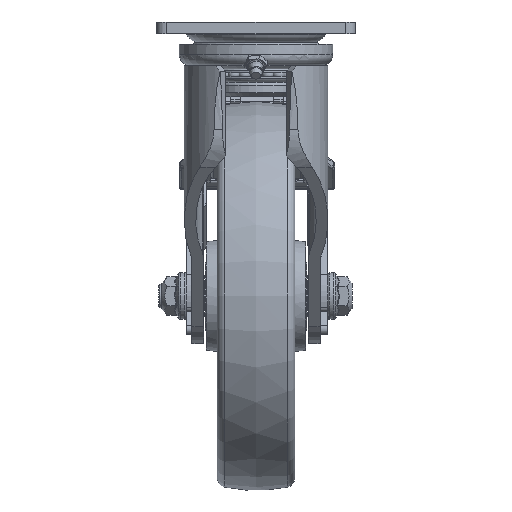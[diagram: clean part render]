
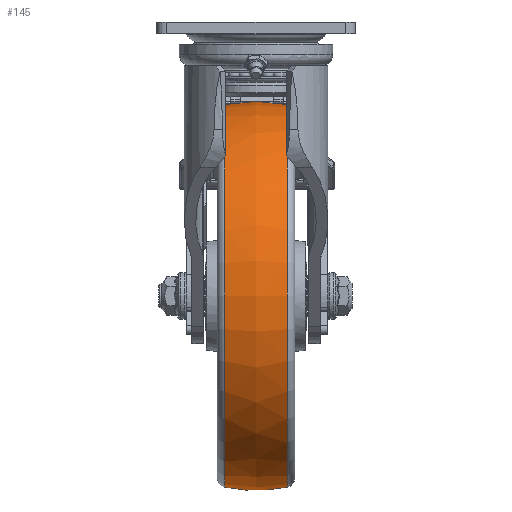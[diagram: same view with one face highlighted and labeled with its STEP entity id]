
A CAD part, left-side view. The second image highlights one B-rep face of the part: STEP entity #145.
In plain terms, the highlighted free-form (B-spline) face has degree [2, 2] with [3, 9] control points.
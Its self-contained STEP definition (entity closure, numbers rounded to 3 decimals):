
#73=CARTESIAN_POINT('',(300.356,274.025,33.171));
#74=VERTEX_POINT('',#73);
#75=CARTESIAN_POINT('',(300.356,274.025,131.555));
#76=DIRECTION('',(0.0,-1.0,0.0));
#77=DIRECTION('',(0.0,0.0,-1.0));
#78=AXIS2_PLACEMENT_3D('',#75,#76,#77);
#79=CIRCLE('',#78,98.384);
#80=EDGE_CURVE('',#74,#74,#79,.T.);
#96=CARTESIAN_POINT('',(201.972,274.025,131.555));
#97=CARTESIAN_POINT('',(198.706,290.025,131.555));
#98=CARTESIAN_POINT('',(201.972,306.025,131.555));
#99=CARTESIAN_POINT('',(201.972,274.025,33.171));
#100=CARTESIAN_POINT('',(198.706,290.025,29.905));
#101=CARTESIAN_POINT('',(201.972,306.025,33.171));
#102=CARTESIAN_POINT('',(300.356,274.025,33.171));
#103=CARTESIAN_POINT('',(300.356,290.025,29.905));
#104=CARTESIAN_POINT('',(300.356,306.025,33.171));
#105=CARTESIAN_POINT('',(398.739,274.025,33.171));
#106=CARTESIAN_POINT('',(402.005,290.025,29.905));
#107=CARTESIAN_POINT('',(398.739,306.025,33.171));
#108=CARTESIAN_POINT('',(398.739,274.025,131.555));
#109=CARTESIAN_POINT('',(402.005,290.025,131.555));
#110=CARTESIAN_POINT('',(398.739,306.025,131.555));
#111=CARTESIAN_POINT('',(398.739,274.025,229.938));
#112=CARTESIAN_POINT('',(402.005,290.025,233.204));
#113=CARTESIAN_POINT('',(398.739,306.025,229.938));
#114=CARTESIAN_POINT('',(300.356,274.025,229.938));
#115=CARTESIAN_POINT('',(300.356,290.025,233.204));
#116=CARTESIAN_POINT('',(300.356,306.025,229.938));
#117=CARTESIAN_POINT('',(201.972,274.025,229.938));
#118=CARTESIAN_POINT('',(198.706,290.025,233.204));
#119=CARTESIAN_POINT('',(201.972,306.025,229.938));
#120=CARTESIAN_POINT('',(201.972,274.025,131.555));
#121=CARTESIAN_POINT('',(198.706,290.025,131.555));
#122=CARTESIAN_POINT('',(201.972,306.025,131.555));
#130=(BOUNDED_SURFACE()B_SPLINE_SURFACE(2,2,((#96,#99,#102,#105,#108,#111,#114,#117,#120),(#97,#100,#103,#106,#109,#112,#115,#118,#121),(#98,#101,#104,#107,#110,#113,#116,#119,#122)),.UNSPECIFIED.,.F.,.T.,.U.)B_SPLINE_SURFACE_WITH_KNOTS((3,3),(3,2,2,2,3),(-0.201,0.201),(0.0,1.571,3.142,4.712,6.283),.UNSPECIFIED.)GEOMETRIC_REPRESENTATION_ITEM()RATIONAL_B_SPLINE_SURFACE(((1.0,0.707,1.0,0.707,1.0,0.707,1.0,0.707,1.0),(0.98,0.693,0.98,0.693,0.98,0.693,0.98,0.693,0.98),(1.0,0.707,1.0,0.707,1.0,0.707,1.0,0.707,1.0)))REPRESENTATION_ITEM('')SURFACE());
#131=CARTESIAN_POINT('',(300.356,306.025,33.171));
#132=VERTEX_POINT('',#131);
#133=CARTESIAN_POINT('',(300.356,306.025,131.555));
#134=DIRECTION('',(0.0,-1.0,0.0));
#135=DIRECTION('',(0.0,0.0,-1.0));
#136=AXIS2_PLACEMENT_3D('',#133,#134,#135);
#137=CIRCLE('',#136,98.384);
#138=EDGE_CURVE('',#132,#132,#137,.T.);
#139=ORIENTED_EDGE('',*,*,#138,.T.);
#140=EDGE_LOOP('',(#139));
#141=FACE_OUTER_BOUND('',#140,.T.);
#142=ORIENTED_EDGE('',*,*,#80,.F.);
#143=EDGE_LOOP('',(#142));
#144=FACE_BOUND('',#143,.T.);
#145=ADVANCED_FACE('',(#141,#144),#130,.T.);
